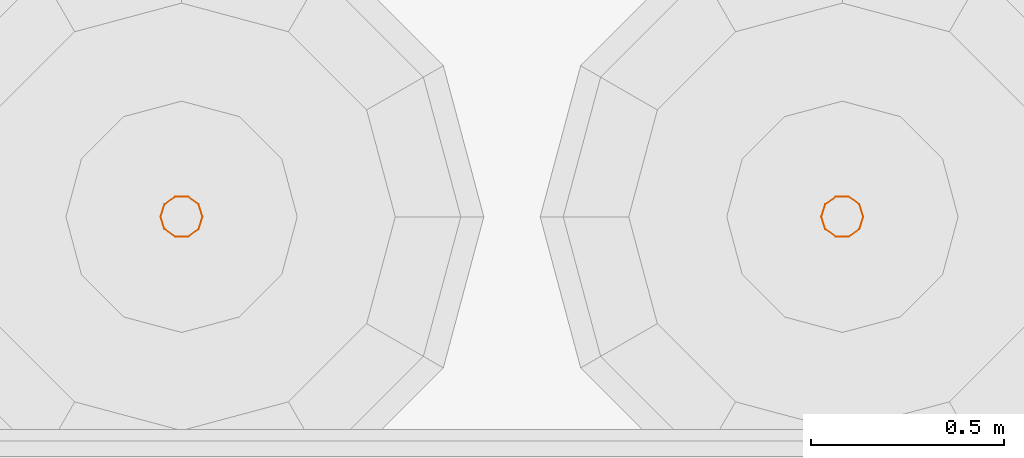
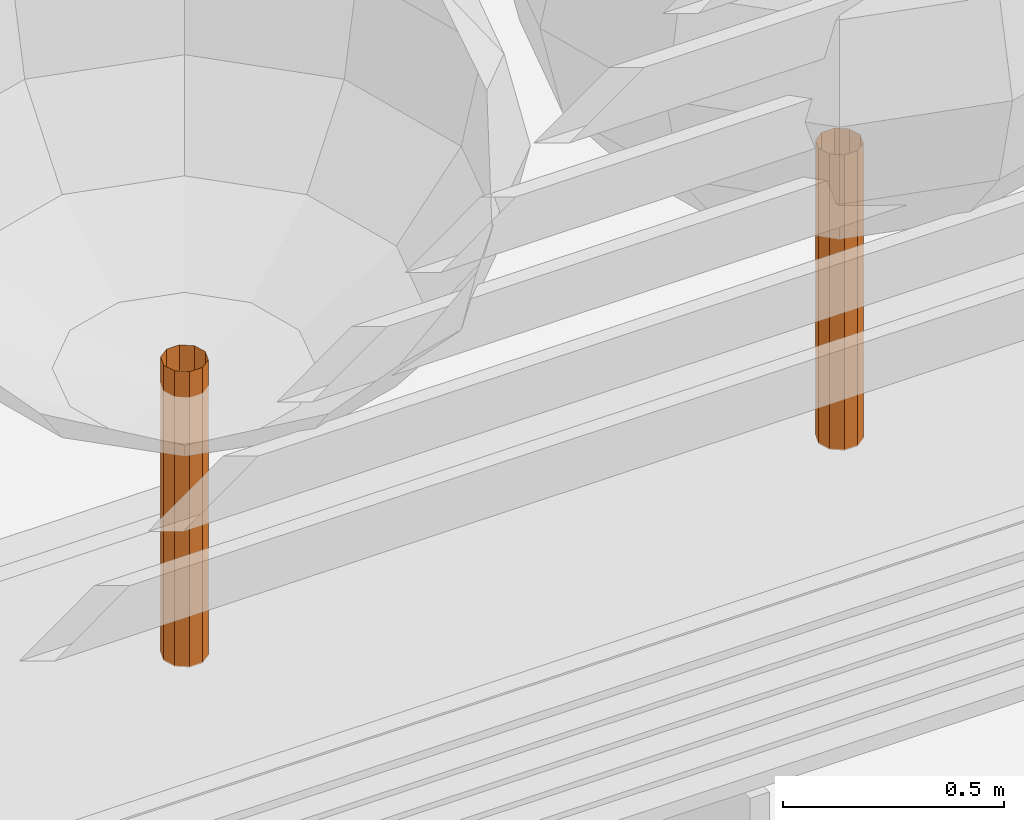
# One storey, part 165 of 166: 2 proxies.
"""IFC2X3 building model written with IfcOpenShell, lengths in metres."""

import ifcopenshell
import ifcopenshell.guid

model = None  # the IFC model being written
_history = None  # IfcOwnerHistory: only IFC2X3 demands one
_inside = {}  # id of a spatial element -> (the spatial element, [elements in it])
_under = {}  # id of a project, library or spatial element -> (it, [spatial elements below it])
_declared = {}  # id of a project -> (the project, [libraries it declares])
_typed = {}  # id of a type object -> (the type object, [elements of that type])
_made_of = {}  # id of a material, layer set ... -> (it, [elements and type objects made of it])


def new_model(schema):
    """Start an empty IFC model of exactly this schema.

    Asked for "IFC4X3", IfcOpenShell would pick the latest addendum, in which some entities
    have other attributes; the version numbers below select the first issue.
    IFC2X3 requires an IfcOwnerHistory on every rooted entity: one is made here for all.
    """
    global model, _history
    if schema == "IFC4X3":
        model = ifcopenshell.file(schema_version=(4, 3, 0, 0))
    else:
        model = ifcopenshell.file(schema=schema)
    _inside.clear()
    _under.clear()
    _declared.clear()
    _typed.clear()
    _made_of.clear()
    _history = None
    if model.schema == "IFC2X3":
        org = make("IfcOrganization", Name="unknown")
        user = make(
            "IfcPersonAndOrganization",
            ThePerson=make("IfcPerson", FamilyName="unknown"),
            TheOrganization=org,
        )
        app = make(
            "IfcApplication",
            ApplicationDeveloper=org,
            Version="unknown",
            ApplicationFullName="unknown",
            ApplicationIdentifier="unknown",
        )
        _history = make(
            "IfcOwnerHistory",
            OwningUser=user,
            OwningApplication=app,
            ChangeAction="ADDED",
            CreationDate=0,
        )
    return model


def make(cls, **values):
    """One entity of the class cls with the attributes given. An attribute that is None is left unset."""
    return model.create_entity(
        cls, **{name: value for name, value in values.items() if value is not None}
    )


def rooted(cls, **values):
    """An entity with a GlobalId (a new one), such as an element, a storey or a relation."""
    return make(cls, GlobalId=ifcopenshell.guid.new(), OwnerHistory=_history, **values)


def si_unit(unit_type, name, prefix=None):
    """IfcSIUnit, for example si_unit("LENGTHUNIT", "METRE", prefix="MILLI")."""
    return make("IfcSIUnit", UnitType=unit_type, Prefix=prefix, Name=name)


def assignment(units):
    """IfcUnitAssignment: the units of a project."""
    return None if units is None else make("IfcUnitAssignment", Units=units)


def point(xyz):
    """IfcCartesianPoint."""
    return None if xyz is None else make("IfcCartesianPoint", Coordinates=xyz)


def direction(xyz):
    """IfcDirection."""
    return None if xyz is None else make("IfcDirection", DirectionRatios=xyz)


def frame(location, z_axis=None, x_axis=None):
    """IfcAxis2Placement3D, a coordinate frame: its origin and axes. An axis left out is left unset."""
    return make(
        "IfcAxis2Placement3D",
        Location=point(location),
        Axis=direction(z_axis),
        RefDirection=direction(x_axis),
    )


def origin():
    """The frame at (0, 0, 0) with its axes left unset."""
    return frame((0.0, 0.0, 0.0))


def origin_with_axes():
    """The frame at (0, 0, 0) with the z axis (0, 0, 1) and the x axis (1, 0, 0) written out."""
    return frame((0.0, 0.0, 0.0), z_axis=(0.0, 0.0, 1.0), x_axis=(1.0, 0.0, 0.0))


def place(relative_to, where):
    """IfcLocalPlacement: puts the frame where relative to a parent placement (None: the world)."""
    return make(
        "IfcLocalPlacement", PlacementRelTo=relative_to, RelativePlacement=where
    )


def context(
    kind, dimensions, precision=None, world=None, true_north=None, identifier=None
):
    """IfcGeometricRepresentationContext, for example the 3D "Model" context."""
    return make(
        "IfcGeometricRepresentationContext",
        ContextIdentifier=identifier,
        ContextType=kind,
        CoordinateSpaceDimension=dimensions,
        Precision=precision,
        WorldCoordinateSystem=world,
        TrueNorth=true_north,
    )


def subcontext(parent, identifier, kind, view, scale=None):
    """IfcGeometricRepresentationSubContext, for example "Body" below "Model"."""
    return make(
        "IfcGeometricRepresentationSubContext",
        ContextIdentifier=identifier,
        ContextType=kind,
        ParentContext=parent,
        TargetScale=scale,
        TargetView=view,
    )


def project(units=None, contexts=None):
    """IfcProject with its units and contexts."""
    return rooted(
        "IfcProject",
        Name="project",
        RepresentationContexts=contexts,
        UnitsInContext=assignment(units),
    )


def spatial(cls, under=None, at=None, **own):
    """A site, building, storey or space (cls), placed at a placement, below another one or the project."""
    s = rooted(cls, ObjectPlacement=at, **own)
    if under is not None:
        _under.setdefault(under.id(), (under, []))[1].append(s)
    return s


def faces_of(points, faces, orient=None, outer=None):
    """IfcFace entities. A face is a list of loops; a loop is a list of indices into points, from 0.

    orient and outer hold one flag for each loop. By default every Orientation is true, the
    first loop of a face is its IfcFaceOuterBound and the others are IfcFaceBound.
    """
    made = []
    for i, loops in enumerate(faces):
        bounds = []
        for j, loop in enumerate(loops):
            is_outer = j == 0 if outer is None else outer[i][j]
            bounds.append(
                make(
                    "IfcFaceOuterBound" if is_outer else "IfcFaceBound",
                    Bound=make("IfcPolyLoop", Polygon=[points[k] for k in loop]),
                    Orientation=True if orient is None else orient[i][j],
                )
            )
        made.append(make("IfcFace", Bounds=bounds))
    return made


def faceted_brep(points, faces, orient=None, outer=None, voids=None):
    """IfcFacetedBrep: a solid bounded by flat faces; with voids (closed shells), ...WithVoids."""
    shared = [point(p) for p in points]
    hull = make("IfcClosedShell", CfsFaces=faces_of(shared, faces, orient, outer))
    if voids is None:
        return make("IfcFacetedBrep", Outer=hull)
    return make(
        "IfcFacetedBrepWithVoids",
        Outer=hull,
        Voids=[
            make(cls, CfsFaces=faces_of(shared, fs, o, b)) for cls, fs, o, b in voids
        ],
    )


def shape(context_of_items, identifier, shape_type, items):
    """IfcShapeRepresentation: the items that make up one representation, for example the "Body"."""
    return make(
        "IfcShapeRepresentation",
        ContextOfItems=context_of_items,
        RepresentationIdentifier=identifier,
        RepresentationType=shape_type,
        Items=items,
    )


def made_of(thing, what):
    """Note that an element or type object is made of a material, layer set ...; save() writes the relation."""
    if what is not None:
        _made_of.setdefault(what.id(), (what, []))[1].append(thing)
    return thing


def element(
    cls,
    number,
    at=None,
    inside=None,
    cuts=None,
    type_object=None,
    material=None,
    context=None,
    identifier="Body",
    shape_type=None,
    held_by="IfcProductDefinitionShape",
    body=None,
    shapes=None,
    **own,
):
    """One element of the class cls, such as IfcWall. Its Tag is "e" and its number.

    at: its placement. inside: the storey or other place that contains it. cuts: it is an
    opening in that element (IfcRelVoidsElement). A single representation is given by context,
    identifier, shape_type and body (its items); several are given by shapes. held_by: the class
    of the entity that holds the representations. save() writes the other relations.
    """
    e = rooted(cls, Tag="e%d" % number, ObjectPlacement=at, **own)
    if body is not None:
        shapes = [shape(context, identifier, shape_type, body)]
    if shapes is not None:
        e.Representation = make(held_by, Representations=shapes)
    if inside is not None:
        _inside.setdefault(inside.id(), (inside, []))[1].append(e)
    if cuts is not None:
        rooted(
            "IfcRelVoidsElement", RelatingBuildingElement=cuts, RelatedOpeningElement=e
        )
    if type_object is not None:
        _typed.setdefault(type_object.id(), (type_object, []))[1].append(e)
    return made_of(e, material)


def aggregate(whole, parts):
    """IfcRelAggregates: a whole, such as a stair, and the parts it consists of."""
    return rooted("IfcRelAggregates", RelatingObject=whole, RelatedObjects=parts)


def save(model, path):
    """Write the relations noted so far, then the file.

    IfcRelAggregates (storeys below a building ...), IfcRelContainedInSpatialStructure (elements
    in a storey), IfcRelDefinesByType, IfcRelAssociatesMaterial and IfcRelDeclares: one each for
    every whole, place, type object, material and project.
    """
    for whole, parts in _under.values():
        aggregate(whole, parts)
    for where, things in _inside.values():
        rooted(
            "IfcRelContainedInSpatialStructure",
            RelatedElements=things,
            RelatingStructure=where,
        )
    for kind, things in _typed.values():
        rooted("IfcRelDefinesByType", RelatedObjects=things, RelatingType=kind)
    for what, things in _made_of.values():
        rooted("IfcRelAssociatesMaterial", RelatedObjects=things, RelatingMaterial=what)
    for by, libraries in _declared.values():
        rooted("IfcRelDeclares", RelatingContext=by, RelatedDefinitions=libraries)
    model.write(path)


model = new_model("IFC2X3")

# Units and contexts
model_context = context("Model", 3, precision=1e-05, world=origin_with_axes())
body_context = subcontext(model_context, "Body", "Model", "MODEL_VIEW")
ifc_project = project(units=[si_unit("LENGTHUNIT", "METRE"), si_unit("AREAUNIT", "SQUARE_METRE"), si_unit("VOLUMEUNIT", "CUBIC_METRE"), si_unit("PLANEANGLEUNIT", "RADIAN")], contexts=[model_context])

# Site, building, storey
site_placement = place(None, origin_with_axes())
site = spatial("IfcSite", under=ifc_project, at=site_placement, Name="Predio Los Mangos - Morales, San Martín", CompositionType="ELEMENT")
building_placement = place(site_placement, origin())
building = spatial("IfcBuilding", under=site, at=building_placement, Name="Hogar de Refugio Temporal", CompositionType="ELEMENT")
storey_placement = place(building_placement, origin())
storey = spatial("IfcBuildingStorey", under=building, at=storey_placement, Name="NIVEL 1 (NPT +0.00)", CompositionType="ELEMENT", Elevation=0.0)

# Proxies
proxy_1_placement = place(storey_placement, origin())
element("IfcBuildingElementProxy", 1, at=proxy_1_placement, inside=storey, Name="arbol_tronco", ObjectType="Árbol", context=body_context, shape_type="Brep", body=[
    faceted_brep([(35.7094, 74.4, 0.45), (35.699, 74.432, 0.45), (35.699, 74.432, 1.266), (35.6718, 74.4517, 0.45), (35.6718, 74.4517, 1.266), (35.6382, 74.4517, 0.45), (35.6382, 74.4517, 1.266), (35.611, 74.432, 0.45), (35.611, 74.432, 1.266), (35.6006, 74.4, 0.45), (35.6006, 74.4, 1.266), (35.611, 74.368, 0.45), (35.611, 74.368, 1.266), (35.6382, 74.3483, 0.45), (35.6382, 74.3483, 1.266), (35.6718, 74.3483, 0.45), (35.6718, 74.3483, 1.266), (35.699, 74.368, 0.45), (35.699, 74.368, 1.266), (35.7094, 74.4, 1.266)], [[[0, 1, 2]], [[1, 3, 4]], [[3, 5, 6]], [[5, 7, 8]], [[7, 9, 10]], [[9, 11, 12]], [[11, 13, 14]], [[13, 15, 16]], [[15, 17, 18]], [[17, 0, 19]], [[0, 2, 19]], [[1, 4, 2]], [[3, 6, 4]], [[5, 8, 6]], [[7, 10, 8]], [[9, 12, 10]], [[11, 14, 12]], [[13, 16, 14]], [[15, 18, 16]], [[17, 19, 18]]]),
])
proxy_2_placement = place(storey_placement, origin())
element("IfcBuildingElementProxy", 2, at=proxy_2_placement, inside=storey, Name="arbol_tronco", ObjectType="Árbol", context=body_context, shape_type="Brep", body=[
    faceted_brep([(33.9994, 74.4, 0.45), (33.989, 74.432, 0.45), (33.989, 74.432, 1.266), (33.9618, 74.4517, 0.45), (33.9618, 74.4517, 1.266), (33.9282, 74.4517, 0.45), (33.9282, 74.4517, 1.266), (33.901, 74.432, 0.45), (33.901, 74.432, 1.266), (33.8906, 74.4, 0.45), (33.8906, 74.4, 1.266), (33.901, 74.368, 0.45), (33.901, 74.368, 1.266), (33.9282, 74.3483, 0.45), (33.9282, 74.3483, 1.266), (33.9618, 74.3483, 0.45), (33.9618, 74.3483, 1.266), (33.989, 74.368, 0.45), (33.989, 74.368, 1.266), (33.9994, 74.4, 1.266)], [[[0, 1, 2]], [[1, 3, 4]], [[3, 5, 6]], [[5, 7, 8]], [[7, 9, 10]], [[9, 11, 12]], [[11, 13, 14]], [[13, 15, 16]], [[15, 17, 18]], [[17, 0, 19]], [[0, 2, 19]], [[1, 4, 2]], [[3, 6, 4]], [[5, 8, 6]], [[7, 10, 8]], [[9, 12, 10]], [[11, 14, 12]], [[13, 16, 14]], [[15, 18, 16]], [[17, 19, 18]]]),
])

save(model, "model.ifc")
